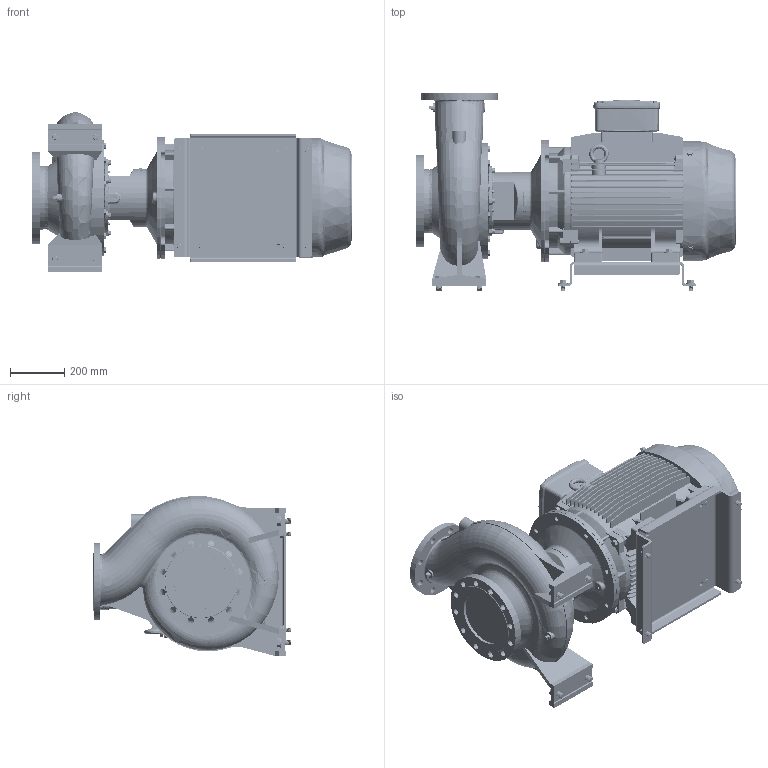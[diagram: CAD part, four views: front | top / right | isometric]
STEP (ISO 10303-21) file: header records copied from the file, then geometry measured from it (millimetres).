
FILE_DESCRIPTION (( 'STEP AP214' ), '1' );
FILE_NAME ('GSD4 150-315_37 & 45_(225SM)_W21.STEP', '2026-07-01T02:36:02', ( '' ), ( '' ), 'SwSTEP 2.0', 'SolidWorks 2024', '' );
FILE_SCHEMA (( 'AUTOMOTIVE_DESIGN' ));
Length unit declared in the file: millimetre
Products named in the file (12): Parametric bolt and washer_SFT-A351B; Parametric bolt_SFT-A359B; Parametric bolt_SFT-A403B; CGS11-5283; GSD4 150-315_37 & 45_(225SM)_W21; Parametric bolt and washer_SFT-A359B; 225S_M4P IE3_W21T_B35; Parametric Flat Washer_M16; Parametric bolt_SFT-A351B; Parametric bolt and washer_SFT-A403B; Parametric Flat Washer_M20; 150-315-225S_M_ﾃﾞﾌｫﾙﾄ
Assembly tree (21 placements, depth 3):
  GSD4 150-315_37 & 45_(225SM)_W21
    150-315-225S_M_ﾃﾞﾌｫﾙﾄ
    225S_M4P IE3_W21T_B35
    CGS11-5283
    Parametric bolt and washer_SFT-A403B  x4
      Parametric bolt_SFT-A403B
      Parametric Flat Washer_M20
    Parametric bolt and washer_SFT-A351B  x4
      Parametric bolt_SFT-A351B
      Parametric Flat Washer_M16
    Parametric bolt and washer_SFT-A359B  x4
      Parametric bolt_SFT-A359B
      Parametric Flat Washer_M16
Bounding box: 1184.5 x 733 x 593.47 mm (x, y, z)
Volume: 158014206.5 mm3; surface area: 5604639.4 mm2
Topology: 30 solids, 35 shells, 4300 faces, 11377 edges, 7282 vertices
Faces by surface type: plane 1722, cylinder 1491, cone 506, bspline 299, torus 264, sphere 18
Entity records: 177772 total; most frequent: CARTESIAN_POINT 89601, ORIENTED_EDGE 19432, DIRECTION 17309, EDGE_CURVE 9716, AXIS2_PLACEMENT_3D 6308, VERTEX_POINT 6211, LINE 4693, VECTOR 4693
